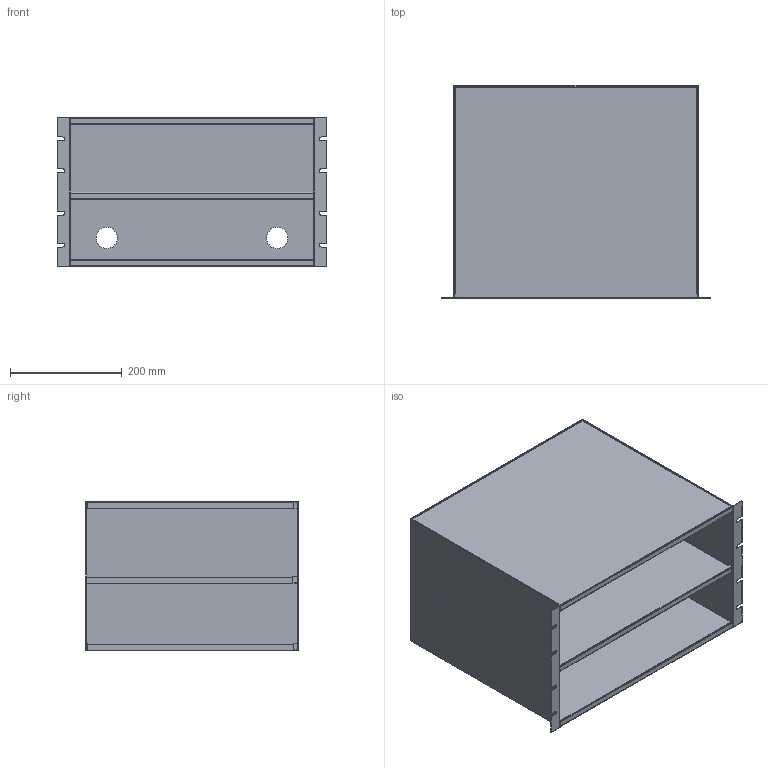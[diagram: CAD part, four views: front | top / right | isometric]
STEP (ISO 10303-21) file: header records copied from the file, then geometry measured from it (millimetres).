
FILE_DESCRIPTION( ( 'Unknown' ), '1' );
FILE_NAME( 'Q:/ACCESSORIES/SHELVES/RAS/WEB DRAWINGS/STEP/RASE1901015.stp', 'Unknown', ( 'Unknown' ), ( 'Unknown' ), 'PSStep 10.1', 'Unknown', ' ' );
FILE_SCHEMA( ( 'AUTOMOTIVE_DESIGN { 1 0 10303 214 1 1 1 1 }' ) );
Length unit declared in the file: millimetre
Products named in the file (3): Assem1; COM41925; COM41923
Bounding box: 482.6 x 381 x 265.91 mm (x, y, z)
Volume: 1472707.3 mm3; surface area: 2430603.9 mm2
Topology: 5 solids, 5 shells, 226 faces, 612 edges, 396 vertices
Faces by surface type: plane 154, cylinder 72
Full cylindrical faces by diameter (mm): 38.1 x4
Entity records: 3774 total; most frequent: CARTESIAN_POINT 522, DIRECTION 512, ORIENTED_EDGE 512, EDGE_CURVE 256, LINE 196, VECTOR 196, VERTEX_POINT 168, AXIS2_PLACEMENT_3D 158
